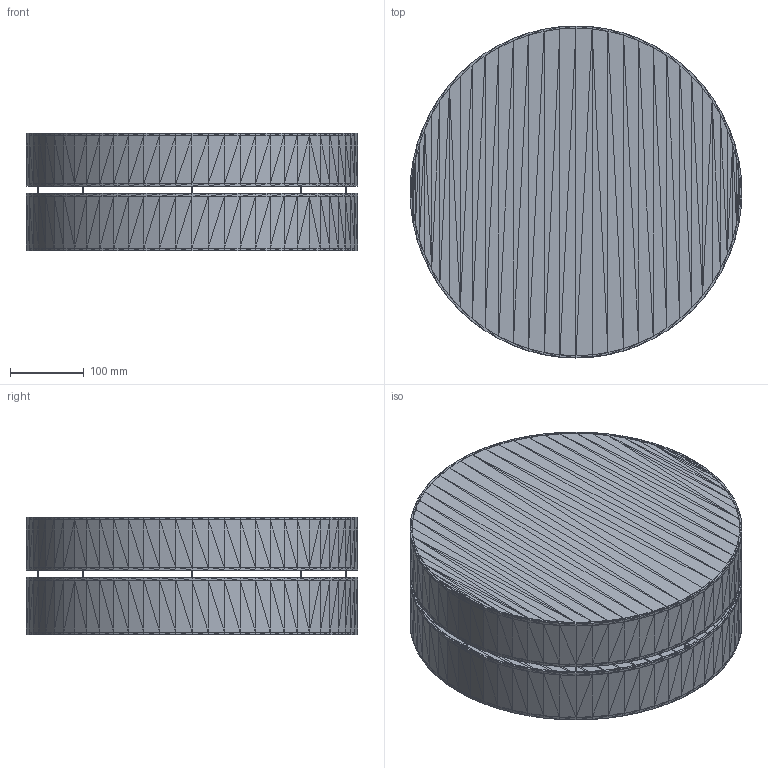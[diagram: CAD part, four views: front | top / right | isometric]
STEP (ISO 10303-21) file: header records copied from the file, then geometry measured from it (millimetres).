
FILE_DESCRIPTION(('FreeCAD Model'),'2;1');
FILE_NAME('Open CASCADE Shape Model','2022-11-30T08:43:41',('Author'),( ''),'Open CASCADE STEP processor 7.6','FreeCAD','Unknown');
FILE_SCHEMA(('AUTOMOTIVE_DESIGN { 1 0 10303 214 1 1 1 1 }'));
Length unit declared in the file: millimetre
Products named in the file (47): Unnamed; Mesh046 (Solid); Mesh001001 (Solid); Mesh002001 (Solid); Mesh003001 (Solid); Mesh004001 (Solid); Mesh005001 (Solid); Mesh006001 (Solid); Mesh007001 (Solid); Mesh008001 (Solid); Mesh009001 (Solid); Mesh010001 (Solid); Mesh011001 (Solid); Mesh012001 (Solid); Mesh013001 (Solid); Mesh014001 (Solid); Mesh015001 (Solid); Mesh016001 (Solid); Mesh017001 (Solid); Mesh018001 (Solid); Mesh019001 (Solid); Mesh020001 (Solid); Mesh021001 (Solid); Mesh022001 (Solid); Mesh023001 (Solid); Mesh024001 (Solid); Mesh025001 (Solid); Mesh026001 (Solid); Mesh027001 (Solid); Mesh028001 (Solid); Mesh029001 (Solid); Mesh030001 (Solid); Mesh031001 (Solid); Mesh032001 (Solid); Mesh033001 (Solid); Mesh034001 (Solid); Mesh035001 (Solid); Mesh036001 (Solid); Mesh037001 (Solid); Mesh038001 (Solid)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
Assembly tree (46 placements, depth 2):
  Unnamed
    Mesh046 (Solid)
    Mesh001001 (Solid)
    Mesh002001 (Solid)
    Mesh003001 (Solid)
    Mesh004001 (Solid)
    Mesh005001 (Solid)
    Mesh006001 (Solid)
    Mesh007001 (Solid)
    Mesh008001 (Solid)
    Mesh009001 (Solid)
    Mesh010001 (Solid)
    Mesh011001 (Solid)
    Mesh012001 (Solid)
    Mesh013001 (Solid)
    Mesh014001 (Solid)
    Mesh015001 (Solid)
    Mesh016001 (Solid)
    Mesh017001 (Solid)
    Mesh018001 (Solid)
    Mesh019001 (Solid)
    Mesh020001 (Solid)
    Mesh021001 (Solid)
    Mesh022001 (Solid)
    Mesh023001 (Solid)
    Mesh024001 (Solid)
    Mesh025001 (Solid)
    Mesh026001 (Solid)
    Mesh027001 (Solid)
    Mesh028001 (Solid)
    Mesh029001 (Solid)
    Mesh030001 (Solid)
    Mesh031001 (Solid)
    Mesh032001 (Solid)
    Mesh033001 (Solid)
    Mesh034001 (Solid)
    Mesh035001 (Solid)
    Mesh036001 (Solid)
    Mesh037001 (Solid)
    Mesh038001 (Solid)
    Mesh039001 (Solid)
    Mesh040001 (Solid)
    Mesh041001 (Solid)
    Mesh042001 (Solid)
    Mesh043001 (Solid)
    Mesh044001 (Solid)
    Mesh045001 (Solid)
Bounding box: 450 x 450 x 160 mm (x, y, z)
Volume: 1417351.1 mm3; surface area: 878868.9 mm2
Topology: 34 solids, 46 shells, 4936 faces, 8092 edges, 3224 vertices
Faces by surface type: plane 4936
Entity records: 199542 total; most frequent: DIRECTION 32866, CARTESIAN_POINT 31107, LINE 22900, VECTOR 22900, ORIENTED_EDGE 14808, PCURVE 14808, DEFINITIONAL_REPRESENTATION 14808, EDGE_CURVE 8092
